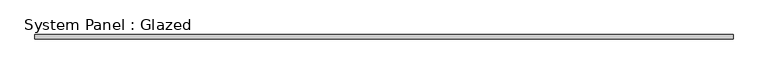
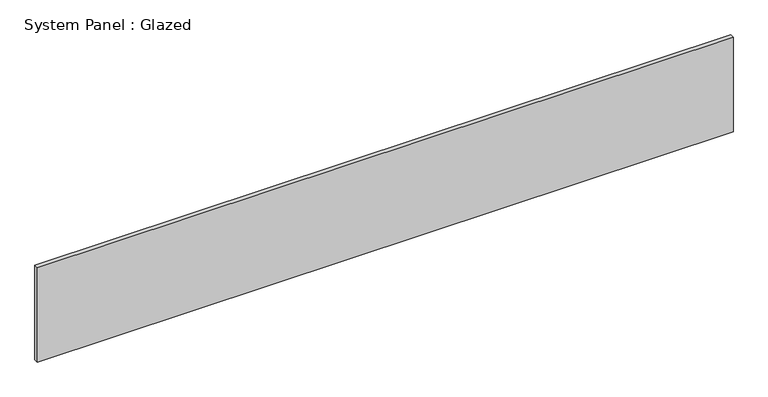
"""IFC4 building model written with IfcOpenShell, lengths in millimetres: plate geometry, System Panel : Glazed."""

from ifc_helpers import new_model, si_unit, origin, origin_with_axes, place, context, project, spatial, polyline, outline, extrude, source, transform, mapped, element, save


def system_panel_glazed_ec0e8b53(model_context):
    return source(origin(), model_context, "Body", "SweptSolid", [
        extrude(outline(polyline([(2092.5, -49.5), (-2092.5, -49.5), (-2092.5, -24.5), (2092.5, -24.5), (2092.5, -49.5)])), origin_with_axes(), (0.0, 0.0, 1.0), 600.0),
    ])


if __name__ == "__main__":
    model = new_model("IFC4")
    model_context = context("Model", 3, world=origin())
    ifc_project = project(units=[si_unit("LENGTHUNIT", "METRE", prefix="MILLI")], contexts=[model_context])
    site = spatial("IfcSite", under=ifc_project)
    building = spatial("IfcBuilding", under=site)
    placement = place(None, origin())
    system_panel_glazed_shape = system_panel_glazed_ec0e8b53(model_context)
    element("IfcPlate", 1, ObjectType="System Panel : Glazed", at=placement, inside=building, context=model_context, shape_type="MappedRepresentation", body=[
        mapped(system_panel_glazed_shape, transform((0.0, 0.0, 0.0), x_axis=(1.0, 0.0, 0.0), y_axis=(0.0, 1.0, 0.0), z_axis=(0.0, 0.0, 1.0))),
    ])
    save(model, "model.ifc")
